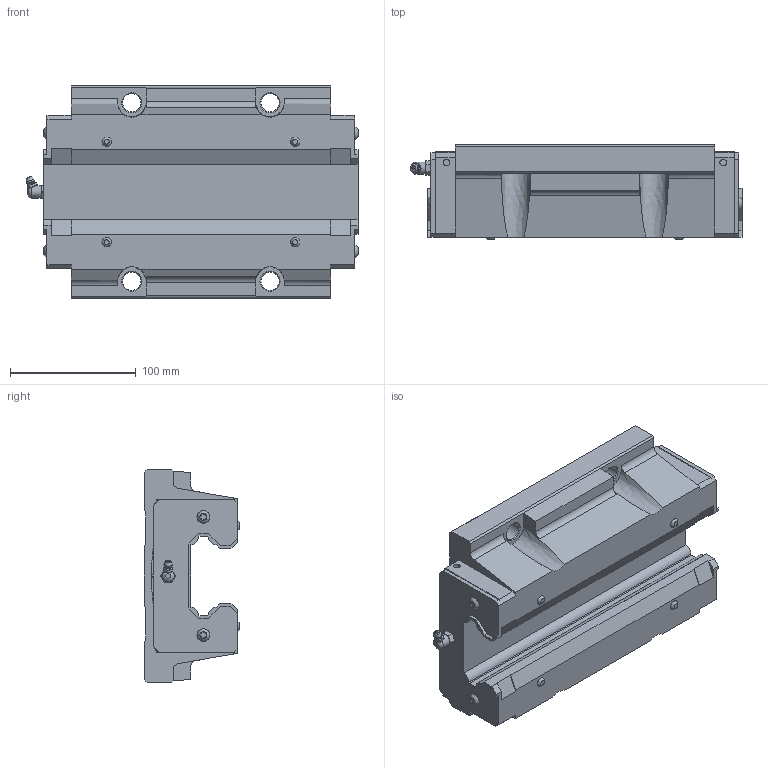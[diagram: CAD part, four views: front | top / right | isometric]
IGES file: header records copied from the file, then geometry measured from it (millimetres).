
Start section: Data from Parasolid IGES Translator 26.0.171, Copyright(c) 2006 Siemens PLM Software. All Rights Reserved.
Global section: file name: HSR65XLC1SS(GK) BLOCK(1B-PT1_8).igs; native system: By Siemens PLM Incorporated; preprocessor: XPlus GENERIC/IGES 26.0.171; author: Noname; organization: Noname; date: 20240521.045930; units: millimetre
Bounding box: 264.2 x 76 x 170 mm (x, y, z)
Surface area: 159128.4 mm2 (no closed solid volume)
Topology: 0 solids, 0 shells, 272 faces, 1421 edges, 1373 vertices
Faces by surface type: extrusion 203, revolution 69
